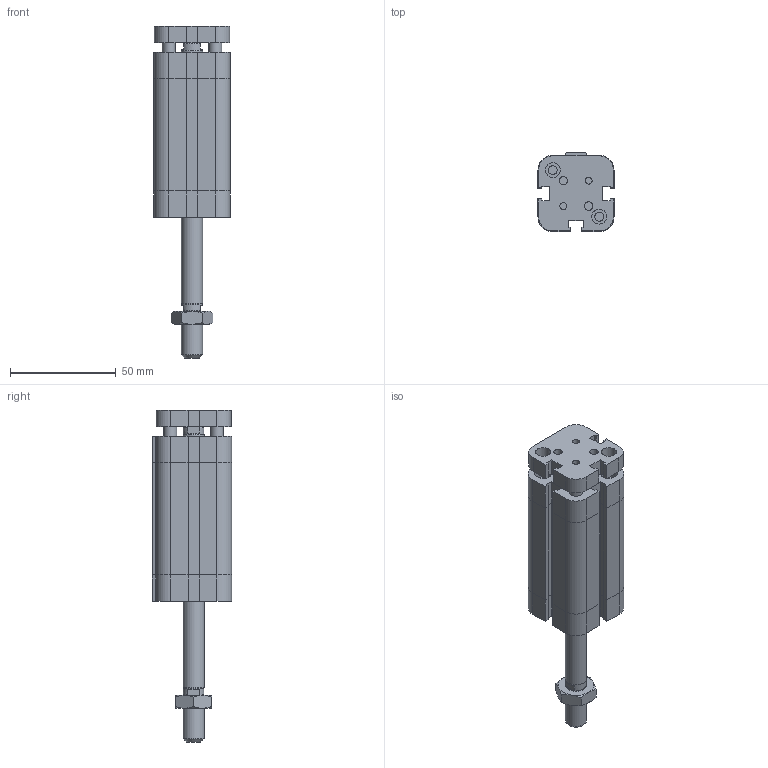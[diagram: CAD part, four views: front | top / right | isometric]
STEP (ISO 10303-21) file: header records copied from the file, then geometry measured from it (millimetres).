
FILE_DESCRIPTION((''),'2;1');
FILE_NAME('I:\Area Tecnica\Disegni\VARIE-3D\Componenti\EUROPE\15##_###_####_09_#\1581_20_0040_09_1.iam.stp','2009-04-20T15:43:19',(''),(''),'Autodesk Inventor 2009','Autodesk Inventor 2009','');
FILE_SCHEMA(('AUTOMOTIVE_DESIGN { 1 0 10303 214 1 1 1 1 }'));
Length unit declared in the file: millimetre
Products named in the file (4): 1581_20_0040_09_1; 1581_20_0040_08_1_C; 1561_20_0040_09_1_SA; DBFM10
Assembly tree (3 placements, depth 2):
  1581_20_0040_09_1
    1581_20_0040_08_1_C
    1561_20_0040_09_1_SA
    DBFM10
Bounding box: 36 x 37.5 x 157 mm (x, y, z)
Volume: 105625.1 mm3; surface area: 32878.4 mm2
Topology: 3 solids, 3 shells, 236 faces, 550 edges, 339 vertices
Faces by surface type: plane 147, bspline 45, cylinder 23, cone 21
Full cylindrical faces by diameter (mm): 6 x2, 8.8 x1, 9.8 x2, 10 x2
Entity records: 6859 total; most frequent: CARTESIAN_POINT 1610, ORIENTED_EDGE 992, DIRECTION 974, EDGE_CURVE 496, VECTOR 350, LINE 350, VERTEX_POINT 322, AXIS2_PLACEMENT_3D 312
